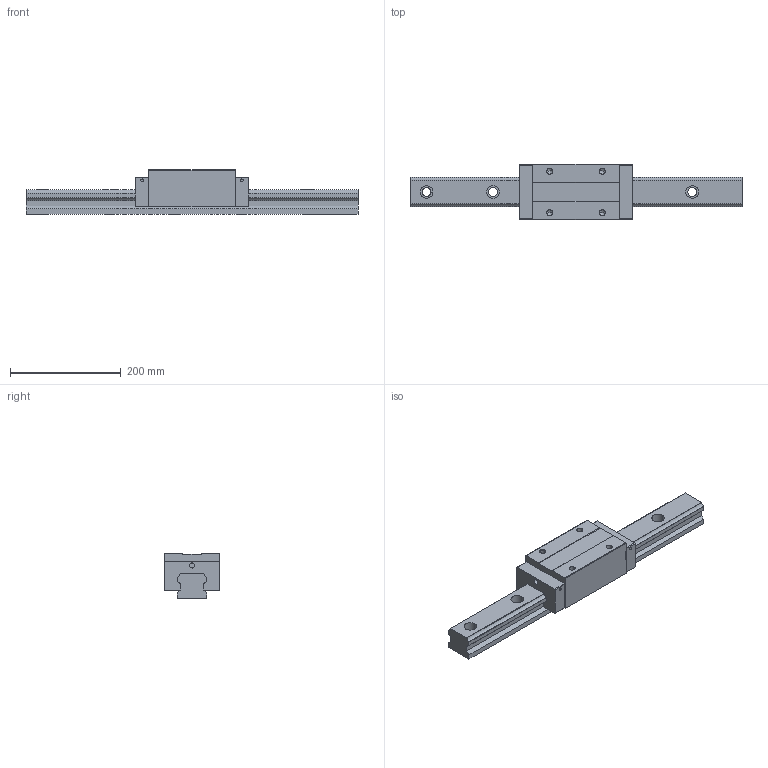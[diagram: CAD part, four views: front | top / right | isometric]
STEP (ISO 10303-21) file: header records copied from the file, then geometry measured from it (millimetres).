
FILE_DESCRIPTION (( 'STEP AP203' ), '1' );
FILE_NAME ('TRH55VE-SU.STEP', '2024-06-26T06:02:03', ( '' ), ( '' ), 'SwSTEP 2.0', 'SolidWorks 2022', '' );
FILE_SCHEMA (( 'CONFIG_CONTROL_DESIGN' ));
Length unit declared in the file: millimetre
Products named in the file (1): TRH55VE-SU
Bounding box: 600 x 100 x 80 mm (x, y, z)
Volume: 2182633.4 mm3; surface area: 231077.1 mm2
Topology: 2 solids, 2 shells, 175 faces, 460 edges, 296 vertices
Faces by surface type: plane 83, cylinder 76, cone 16
Entity records: 5453 total; most frequent: DIRECTION 964, CARTESIAN_POINT 924, ORIENTED_EDGE 904, EDGE_CURVE 452, AXIS2_PLACEMENT_3D 336, VERTEX_POINT 296, VECTOR 292, LINE 292
